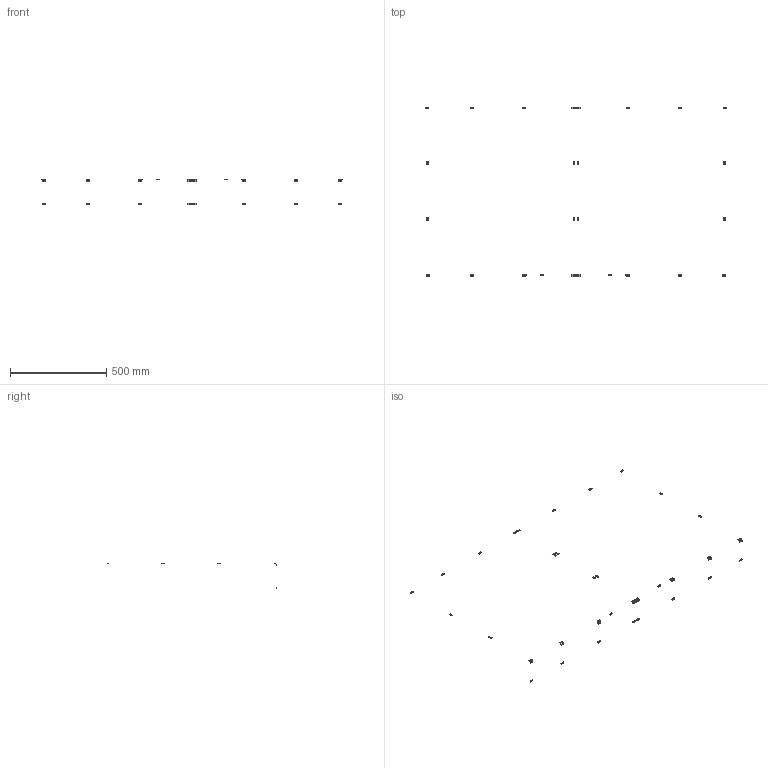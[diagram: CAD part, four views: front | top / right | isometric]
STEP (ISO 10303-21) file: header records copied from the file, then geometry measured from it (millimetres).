
FILE_DESCRIPTION(/* description */ (''),/* implementation_level */ '2;1');
FILE_NAME(/* name */ 'DOOR-P~3',/* time_stamp */ '2014-02-14T19:51:01+01:00',/* author */ (''),/* organization */ (''),/* preprocessor_version */ 'ST-DEVELOPER v14',/* originating_system */ '',/* authorisation */ '');
FILE_SCHEMA (('AUTOMOTIVE_DESIGN'));
Length unit declared in the file: millimetre
Products named in the file (2): Document; nut tslot, post, M5
Assembly tree (21 placements, depth 2):
  Document
    nut tslot, post, M5  x21
Bounding box: 1566 x 882.75 x 132.75 mm (x, y, z)
Volume: 13230.8 mm3; surface area: 17619.9 mm2
Topology: 42 solids, 42 shells, 546 faces, 1512 edges, 1008 vertices
Faces by surface type: plane 462, bspline 84
Entity records: 21153 total; most frequent: CARTESIAN_POINT 10056, B_SPLINE_CURVE_WITH_KNOTS 2200, ORIENTED_EDGE 1584, PCURVE 1584, DEFINITIONAL_REPRESENTATION 1584, SURFACE_CURVE 792, EDGE_CURVE 792, VERTEX_POINT 528
